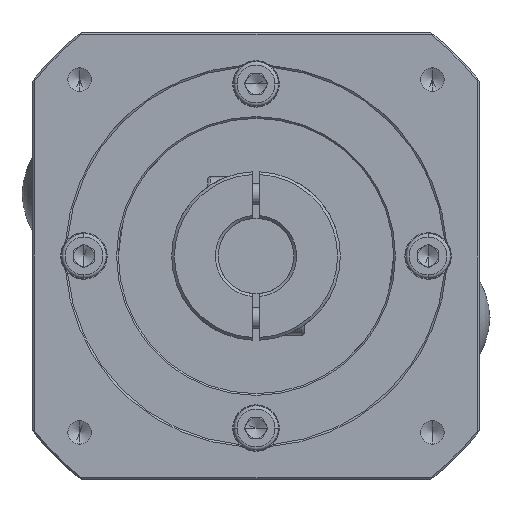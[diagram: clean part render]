
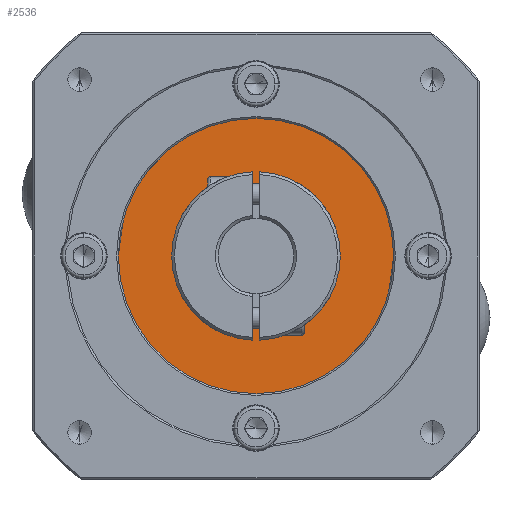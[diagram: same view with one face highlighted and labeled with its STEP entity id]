
A CAD part, left-side view. The second image highlights one B-rep face of the part: STEP entity #2536.
In plain terms, the highlighted planar face has unit normal (-1, 0, 0) as drawn and (0, 0, 1) by its records, which use the part's own axes.
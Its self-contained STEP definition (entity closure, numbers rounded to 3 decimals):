
#23 = EDGE_CURVE ( 'NONE', #10094, #11414, #7232, .T. ) ;
#86 = CARTESIAN_POINT ( 'NONE',  ( 0., -50., 31. ) ) ;
#587 = CIRCLE ( 'NONE', #8337, 4.25 ) ;
#590 = EDGE_CURVE ( 'NONE', #10907, #3384, #2916, .T. ) ;
#729 = CARTESIAN_POINT ( 'NONE',  ( 0., 0., 31. ) ) ;
#814 = CARTESIAN_POINT ( 'NONE',  ( 57.5, 0., 31. ) ) ;
#877 = CARTESIAN_POINT ( 'NONE',  ( -4.25, -50., 31. ) ) ;
#892 = EDGE_LOOP ( 'NONE', ( #5665, #4416 ) ) ;
#1070 = DIRECTION ( 'NONE',  ( 0., 0., -1. ) ) ;
#1231 = CIRCLE ( 'NONE', #4836, 4.25 ) ;
#1277 = CIRCLE ( 'NONE', #7205, 4.25 ) ;
#1341 = AXIS2_PLACEMENT_3D ( 'NONE', #6834, #4186, #4036 ) ;
#1441 = PLANE ( 'NONE',  #2624 ) ;
#1592 = DIRECTION ( 'NONE',  ( 1., 0., 0. ) ) ;
#1927 = VERTEX_POINT ( 'NONE', #10352 ) ;
#1973 = AXIS2_PLACEMENT_3D ( 'NONE', #11011, #4780, #8310 ) ;
#2194 = VERTEX_POINT ( 'NONE', #877 ) ;
#2433 = EDGE_CURVE ( 'NONE', #4090, #1927, #11192, .T. ) ;
#2462 = CIRCLE ( 'NONE', #1341, 4.25 ) ;
#2468 = ORIENTED_EDGE ( 'NONE', *, *, #11256, .T. ) ;
#2536 = ADVANCED_FACE ( 'NONE', ( #8669, #6329, #6186, #4069, #2657 ), #1441, .T. ) ;
#2624 = AXIS2_PLACEMENT_3D ( 'NONE', #8790, #11493, #1592 ) ;
#2657 = FACE_OUTER_BOUND ( 'NONE', #2975, .T. ) ;
#2688 = CIRCLE ( 'NONE', #1973, 57.5 ) ;
#2916 = CIRCLE ( 'NONE', #5683, 4.25 ) ;
#2975 = EDGE_LOOP ( 'NONE', ( #3183, #6006 ) ) ;
#3038 = DIRECTION ( 'NONE',  ( 0., 0., -1. ) ) ;
#3183 = ORIENTED_EDGE ( 'NONE', *, *, #8615, .T. ) ;
#3384 = VERTEX_POINT ( 'NONE', #7384 ) ;
#3398 = EDGE_CURVE ( 'NONE', #2194, #5094, #3480, .T. ) ;
#3401 = DIRECTION ( 'NONE',  ( 1., 0., 0. ) ) ;
#3480 = CIRCLE ( 'NONE', #9880, 4.25 ) ;
#3754 = EDGE_LOOP ( 'NONE', ( #8502, #7374 ) ) ;
#3801 = CIRCLE ( 'NONE', #5919, 4.25 ) ;
#3905 = EDGE_LOOP ( 'NONE', ( #2468, #11004 ) ) ;
#3942 = CARTESIAN_POINT ( 'NONE',  ( 0., -50., 31. ) ) ;
#4036 = DIRECTION ( 'NONE',  ( 0., -1., 0. ) ) ;
#4069 = FACE_BOUND ( 'NONE', #9471, .T. ) ;
#4090 = VERTEX_POINT ( 'NONE', #6169 ) ;
#4186 = DIRECTION ( 'NONE',  ( 0., 0., -1. ) ) ;
#4251 = DIRECTION ( 'NONE',  ( 0., 0., -1. ) ) ;
#4300 = ORIENTED_EDGE ( 'NONE', *, *, #590, .T. ) ;
#4362 = DIRECTION ( 'NONE',  ( 0., 1., 0. ) ) ;
#4416 = ORIENTED_EDGE ( 'NONE', *, *, #9265, .T. ) ;
#4512 = CARTESIAN_POINT ( 'NONE',  ( 0., 50., 31. ) ) ;
#4780 = DIRECTION ( 'NONE',  ( 0., 0., 1. ) ) ;
#4836 = AXIS2_PLACEMENT_3D ( 'NONE', #7049, #8692, #6142 ) ;
#5073 = DIRECTION ( 'NONE',  ( 0., 0., -1. ) ) ;
#5094 = VERTEX_POINT ( 'NONE', #6026 ) ;
#5463 = DIRECTION ( 'NONE',  ( -1., 0., 0. ) ) ;
#5665 = ORIENTED_EDGE ( 'NONE', *, *, #5957, .T. ) ;
#5683 = AXIS2_PLACEMENT_3D ( 'NONE', #6397, #8029, #5463 ) ;
#5919 = AXIS2_PLACEMENT_3D ( 'NONE', #4512, #10787, #10817 ) ;
#5957 = EDGE_CURVE ( 'NONE', #8456, #7117, #1231, .T. ) ;
#6006 = ORIENTED_EDGE ( 'NONE', *, *, #23, .T. ) ;
#6026 = CARTESIAN_POINT ( 'NONE',  ( 4.25, -50., 31. ) ) ;
#6097 = AXIS2_PLACEMENT_3D ( 'NONE', #8555, #5073, #11252 ) ;
#6142 = DIRECTION ( 'NONE',  ( 0., 1., 0. ) ) ;
#6169 = CARTESIAN_POINT ( 'NONE',  ( -45.75, 0., 31. ) ) ;
#6186 = FACE_BOUND ( 'NONE', #3905, .T. ) ;
#6329 = FACE_BOUND ( 'NONE', #3754, .T. ) ;
#6397 = CARTESIAN_POINT ( 'NONE',  ( 0., 50., 31. ) ) ;
#6834 = CARTESIAN_POINT ( 'NONE',  ( -50., 0., 31. ) ) ;
#6962 = CARTESIAN_POINT ( 'NONE',  ( -57.5, 0., 31. ) ) ;
#7049 = CARTESIAN_POINT ( 'NONE',  ( 50., 0., 31. ) ) ;
#7117 = VERTEX_POINT ( 'NONE', #8648 ) ;
#7205 = AXIS2_PLACEMENT_3D ( 'NONE', #11400, #4251, #4362 ) ;
#7232 = CIRCLE ( 'NONE', #8428, 57.5 ) ;
#7374 = ORIENTED_EDGE ( 'NONE', *, *, #8716, .T. ) ;
#7384 = CARTESIAN_POINT ( 'NONE',  ( -4.25, 50., 31. ) ) ;
#7493 = CARTESIAN_POINT ( 'NONE',  ( 4.25, 50., 31. ) ) ;
#7827 = DIRECTION ( 'NONE',  ( 0., 0., 1. ) ) ;
#8029 = DIRECTION ( 'NONE',  ( 0., 0., -1. ) ) ;
#8035 = CARTESIAN_POINT ( 'NONE',  ( 45.75, 0., 31. ) ) ;
#8255 = DIRECTION ( 'NONE',  ( 1., 0., 0. ) ) ;
#8310 = DIRECTION ( 'NONE',  ( 1., 0., 0. ) ) ;
#8337 = AXIS2_PLACEMENT_3D ( 'NONE', #3942, #3038, #9381 ) ;
#8428 = AXIS2_PLACEMENT_3D ( 'NONE', #729, #7827, #3401 ) ;
#8456 = VERTEX_POINT ( 'NONE', #8035 ) ;
#8502 = ORIENTED_EDGE ( 'NONE', *, *, #3398, .T. ) ;
#8555 = CARTESIAN_POINT ( 'NONE',  ( -50., 0., 31. ) ) ;
#8615 = EDGE_CURVE ( 'NONE', #11414, #10094, #2688, .T. ) ;
#8648 = CARTESIAN_POINT ( 'NONE',  ( 54.25, 0., 31. ) ) ;
#8669 = FACE_BOUND ( 'NONE', #892, .T. ) ;
#8692 = DIRECTION ( 'NONE',  ( 0., 0., -1. ) ) ;
#8716 = EDGE_CURVE ( 'NONE', #5094, #2194, #587, .T. ) ;
#8790 = CARTESIAN_POINT ( 'NONE',  ( 0., 0., 31. ) ) ;
#9265 = EDGE_CURVE ( 'NONE', #7117, #8456, #1277, .T. ) ;
#9381 = DIRECTION ( 'NONE',  ( 1., 0., 0. ) ) ;
#9459 = ORIENTED_EDGE ( 'NONE', *, *, #9479, .T. ) ;
#9471 = EDGE_LOOP ( 'NONE', ( #9459, #4300 ) ) ;
#9479 = EDGE_CURVE ( 'NONE', #3384, #10907, #3801, .T. ) ;
#9880 = AXIS2_PLACEMENT_3D ( 'NONE', #86, #1070, #8255 ) ;
#10094 = VERTEX_POINT ( 'NONE', #814 ) ;
#10352 = CARTESIAN_POINT ( 'NONE',  ( -54.25, 0., 31. ) ) ;
#10787 = DIRECTION ( 'NONE',  ( 0., 0., -1. ) ) ;
#10817 = DIRECTION ( 'NONE',  ( -1., 0., 0. ) ) ;
#10907 = VERTEX_POINT ( 'NONE', #7493 ) ;
#11004 = ORIENTED_EDGE ( 'NONE', *, *, #2433, .T. ) ;
#11011 = CARTESIAN_POINT ( 'NONE',  ( 0., 0., 31. ) ) ;
#11192 = CIRCLE ( 'NONE', #6097, 4.25 ) ;
#11252 = DIRECTION ( 'NONE',  ( 0., -1., 0. ) ) ;
#11256 = EDGE_CURVE ( 'NONE', #1927, #4090, #2462, .T. ) ;
#11400 = CARTESIAN_POINT ( 'NONE',  ( 50., 0., 31. ) ) ;
#11414 = VERTEX_POINT ( 'NONE', #6962 ) ;
#11493 = DIRECTION ( 'NONE',  ( 0., 0., 1. ) ) ;
